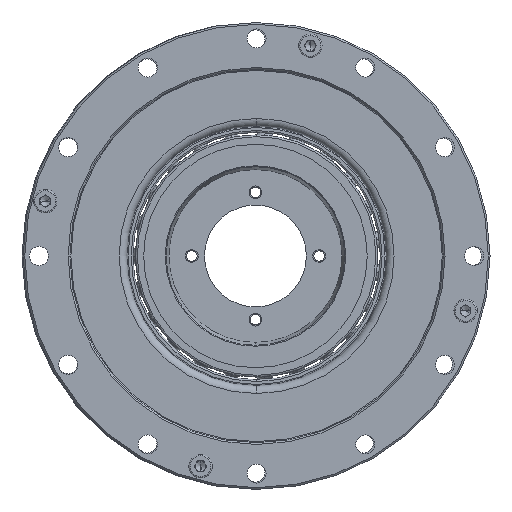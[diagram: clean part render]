
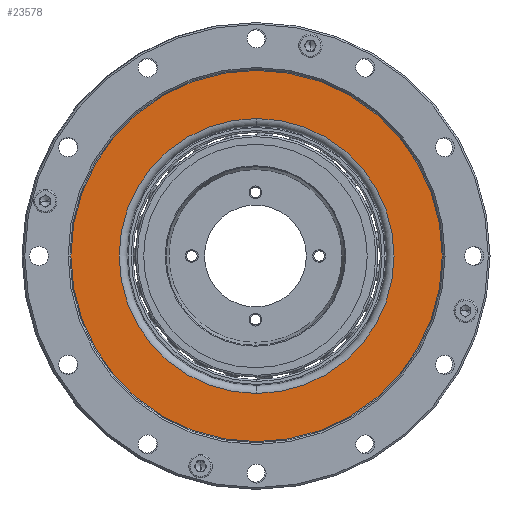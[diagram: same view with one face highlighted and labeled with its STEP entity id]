
A CAD part, left-side view. The second image highlights one B-rep face of the part: STEP entity #23578.
In plain terms, the highlighted planar face has unit normal (-1, 0, 0).
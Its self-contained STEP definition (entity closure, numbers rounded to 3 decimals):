
#22394=CARTESIAN_POINT('',(3.612,-0.263,0.));
#22395=DIRECTION('',(-1.,0.,0.));
#22396=DIRECTION('',(0.,0.,1.));
#22397=AXIS2_PLACEMENT_3D('',#22394,#22395,#22396);
#22399=CARTESIAN_POINT('',(3.612,-0.263,0.));
#22400=DIRECTION('',(-1.,0.,0.));
#22401=DIRECTION('',(0.,0.,-1.));
#22402=AXIS2_PLACEMENT_3D('',#22399,#22400,#22401);
#22404=CARTESIAN_POINT('',(3.612,-0.263,0.));
#22405=DIRECTION('',(1.,0.,0.));
#22406=DIRECTION('',(0.,0.,-1.));
#22407=AXIS2_PLACEMENT_3D('',#22404,#22405,#22406);
#22409=CARTESIAN_POINT('',(3.612,-0.263,0.));
#22410=DIRECTION('',(1.,0.,0.));
#22411=DIRECTION('',(0.,0.,1.));
#22412=AXIS2_PLACEMENT_3D('',#22409,#22410,#22411);
#22728=CARTESIAN_POINT('',(3.612,-0.263,-32.387));
#22729=VERTEX_POINT('',#22728);
#22744=CARTESIAN_POINT('',(3.612,-0.263,-43.75));
#22745=VERTEX_POINT('',#22744);
#22748=CARTESIAN_POINT('',(3.612,-0.263,43.75));
#22749=VERTEX_POINT('',#22748);
#22754=CARTESIAN_POINT('',(3.612,-0.263,32.387));
#22755=VERTEX_POINT('',#22754);
#23562=CARTESIAN_POINT('',(3.612,43.487,0.));
#23563=DIRECTION('',(1.,0.,0.));
#23564=DIRECTION('',(0.,0.,-1.));
#23565=AXIS2_PLACEMENT_3D('',#23562,#23563,#23564);
#23566=PLANE('',#23565);
#23568=ORIENTED_EDGE('',*,*,#23567,.F.);
#23569=ORIENTED_EDGE('',*,*,#23552,.F.);
#23570=EDGE_LOOP('',(#23568,#23569));
#23571=FACE_OUTER_BOUND('',#23570,.F.);
#23573=ORIENTED_EDGE('',*,*,#23572,.F.);
#23575=ORIENTED_EDGE('',*,*,#23574,.F.);
#23576=EDGE_LOOP('',(#23573,#23575));
#23577=FACE_BOUND('',#23576,.F.);
#22398=CIRCLE('',#22397,43.75);
#22403=CIRCLE('',#22402,43.75);
#22408=CIRCLE('',#22407,32.387);
#22413=CIRCLE('',#22412,32.387);
#23552=EDGE_CURVE('',#22745,#22749,#22403,.T.);
#23567=EDGE_CURVE('',#22749,#22745,#22398,.T.);
#23572=EDGE_CURVE('',#22729,#22755,#22408,.T.);
#23574=EDGE_CURVE('',#22755,#22729,#22413,.T.);
#23578=ADVANCED_FACE('',(#23571,#23577),#23566,.F.);
